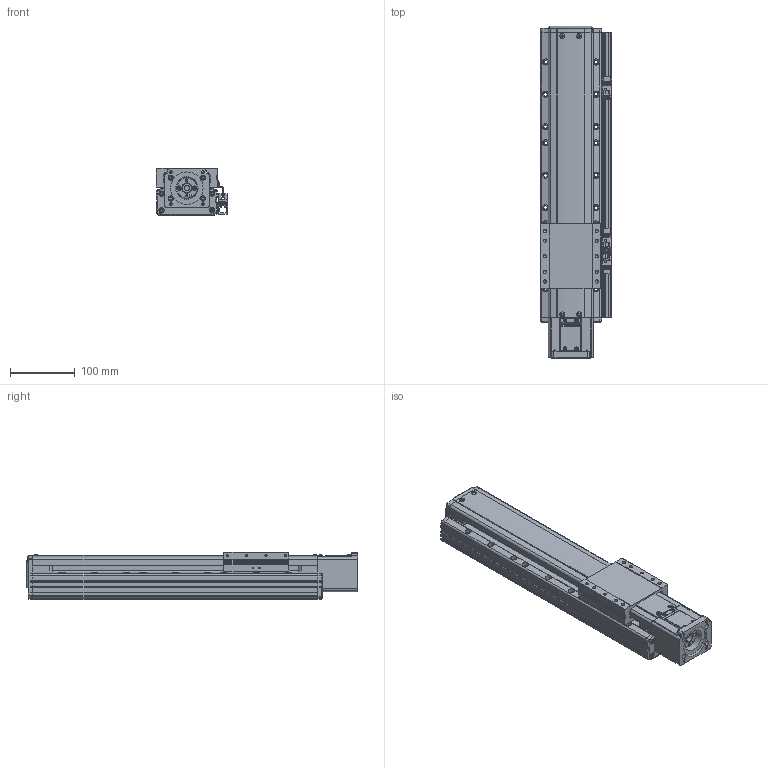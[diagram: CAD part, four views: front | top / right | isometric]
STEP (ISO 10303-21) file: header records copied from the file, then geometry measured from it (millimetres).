
FILE_DESCRIPTION(('STEP AP214'),'1');
FILE_NAME('Z:/Web/3D/PSA95/STP/PSA95-250 (3D)/PSA95ㅁㅁ-250S+3SR.stp','2014-07-03T00:01:23',(' '),(' '),'Spatial InterOp 3D',' ',' ');
FILE_SCHEMA(('automotive_design'));
Length unit declared in the file: millimetre
Products named in the file (53): BASE; RRCV; 스크루 : Round - M4.0 x 10.0; 너트 : Square - M10.0 x 220.7419; RR1500; FRCV-090; 스크루 : Round - M4.0 x 6.0; SLBL-PA90; SSFX-SAN65; CPLCV-SAN65; 스크루 : Round - M3.0 x 6.0; MTHZ-PA70/90-S60A-3; 스크루 : Socket - M4.0 x 20.0; NONE; EE-SX674; SBK-SX674-352; M3.0 x 6.0; SRL-16x17-380L; SGD-PA95; 스크루 : Round - M3.0 x 8.0
Bounding box: 111 x 512.5 x 74 mm (x, y, z)
Volume: 2724362.6 mm3; surface area: 402970.4 mm2
Topology: 53 solids, 87 shells, 3544 faces, 9100 edges, 5776 vertices
Faces by surface type: plane 1811, cylinder 1070, cone 407, torus 158, sphere 66, bspline 32
Entity records: 139682 total; most frequent: CARTESIAN_POINT 22546, DIRECTION 19036, ORIENTED_EDGE 17912, EDGE_CURVE 8956, AXIS2_PLACEMENT_3D 6748, VERTEX_POINT 5776, LINE 5540, VECTOR 5540
